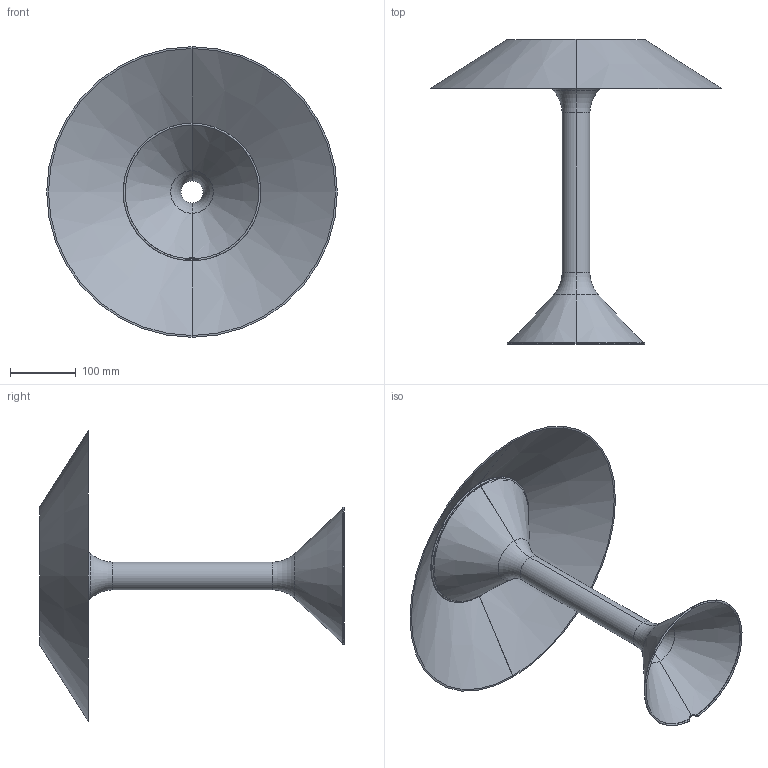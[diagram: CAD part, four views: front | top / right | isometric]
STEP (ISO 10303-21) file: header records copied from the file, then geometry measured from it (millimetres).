
FILE_DESCRIPTION (( 'STEP AP214' ), '1' );
FILE_NAME ('314_M_LD_3D.STEP', '2023-06-06T08:54:24', ( '' ), ( '' ), 'SwSTEP 2.0', 'SolidWorks 2022', '' );
FILE_SCHEMA (( 'AUTOMOTIVE_DESIGN' ));
Length unit declared in the file: millimetre
Products named in the file (1): 314_M_LD_3D
Bounding box: 443.25 x 464.99 x 443.25 mm (x, y, z)
Volume: 547805 mm3; surface area: 557873 mm2
Topology: 2 solids, 2 shells, 56 faces, 117 edges, 62 vertices
Faces by surface type: torus 28, cone 18, cylinder 9, plane 1
Entity records: 2265 total; most frequent: CARTESIAN_POINT 376, DIRECTION 302, ORIENTED_EDGE 234, AXIS2_PLACEMENT_3D 138, EDGE_CURVE 117, CIRCLE 81, VERTEX_POINT 62, UNCERTAINTY_MEASURE_WITH_UNIT 60
